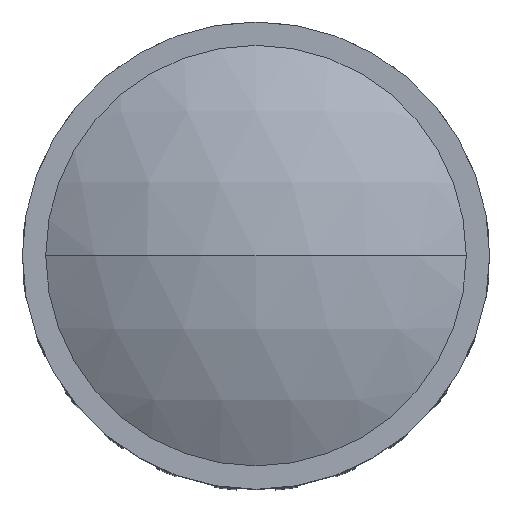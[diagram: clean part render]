
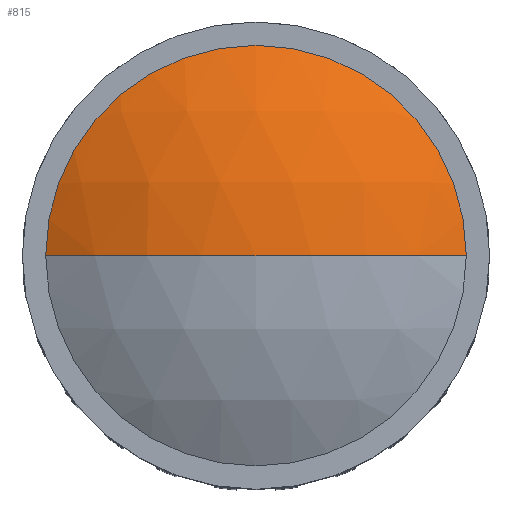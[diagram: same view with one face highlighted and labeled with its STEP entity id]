
A CAD part, top view. The second image highlights one B-rep face of the part: STEP entity #815.
In plain terms, the highlighted spherical face has radius 3.49 mm.
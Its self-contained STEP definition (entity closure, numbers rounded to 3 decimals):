
#1 = EDGE_CURVE ( 'NONE', #1445, #2002, #453, .T. ) ;
#346 = ORIENTED_EDGE ( 'NONE', *, *, #1384, .F. ) ;
#426 = CARTESIAN_POINT ( 'NONE',  ( 0., 0., 4.81 ) ) ;
#453 = CIRCLE ( 'NONE', #541, 3.49 ) ;
#492 = CARTESIAN_POINT ( 'NONE',  ( 0., 0., 4.81 ) ) ;
#541 = AXIS2_PLACEMENT_3D ( 'NONE', #492, #1756, #901 ) ;
#744 = CARTESIAN_POINT ( 'NONE',  ( 1.8, 0., 7.8 ) ) ;
#783 = VERTEX_POINT ( 'NONE', #744 ) ;
#815 = ADVANCED_FACE ( 'NONE', ( #4147 ), #2806, .T. ) ;
#841 = CARTESIAN_POINT ( 'NONE',  ( -1.8, 0., 7.8 ) ) ;
#898 = AXIS2_PLACEMENT_3D ( 'NONE', #4398, #1957, #2322 ) ;
#901 = DIRECTION ( 'NONE',  ( -1., 0., 0. ) ) ;
#1349 = EDGE_LOOP ( 'NONE', ( #4817, #3711, #346 ) ) ;
#1384 = EDGE_CURVE ( 'NONE', #783, #2002, #4687, .T. ) ;
#1445 = VERTEX_POINT ( 'NONE', #841 ) ;
#1651 = CARTESIAN_POINT ( 'NONE',  ( 0., 0., 4.81 ) ) ;
#1756 = DIRECTION ( 'NONE',  ( 0., 1., 0. ) ) ;
#1957 = DIRECTION ( 'NONE',  ( 0., 0., 1. ) ) ;
#2002 = VERTEX_POINT ( 'NONE', #4227 ) ;
#2322 = DIRECTION ( 'NONE',  ( -1., 0., 0. ) ) ;
#2806 = SPHERICAL_SURFACE ( 'NONE', #4904, 3.49 ) ;
#3125 = AXIS2_PLACEMENT_3D ( 'NONE', #1651, #4913, #3645 ) ;
#3168 = CIRCLE ( 'NONE', #898, 1.8 ) ;
#3221 = DIRECTION ( 'NONE',  ( 0., 1., 0. ) ) ;
#3511 = EDGE_CURVE ( 'NONE', #783, #1445, #3168, .T. ) ;
#3645 = DIRECTION ( 'NONE',  ( 0., 0., -1. ) ) ;
#3711 = ORIENTED_EDGE ( 'NONE', *, *, #1, .T. ) ;
#4147 = FACE_OUTER_BOUND ( 'NONE', #1349, .T. ) ;
#4227 = CARTESIAN_POINT ( 'NONE',  ( 0., 0., 8.3 ) ) ;
#4398 = CARTESIAN_POINT ( 'NONE',  ( 0., 0., 7.8 ) ) ;
#4460 = DIRECTION ( 'NONE',  ( 1., 0., 0. ) ) ;
#4687 = CIRCLE ( 'NONE', #3125, 3.49 ) ;
#4817 = ORIENTED_EDGE ( 'NONE', *, *, #3511, .T. ) ;
#4904 = AXIS2_PLACEMENT_3D ( 'NONE', #426, #3221, #4460 ) ;
#4913 = DIRECTION ( 'NONE',  ( 0., -1., 0. ) ) ;
